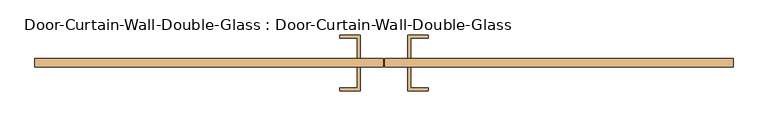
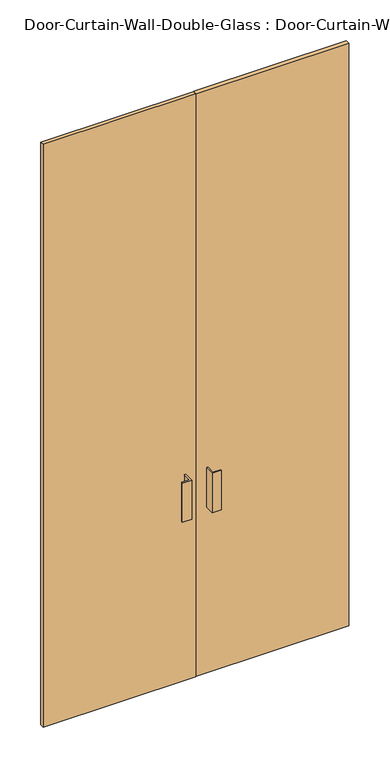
"""IFC4 building model written with IfcOpenShell, lengths in millimetres: door geometry, Door-Curtain-Wall-Double-Glass : Door-Curtain-Wall-Double-Glass."""

from ifc_helpers import new_model, si_unit, frame, origin, origin_with_axes, place, context, project, spatial, polyline, outline, extrude, source, transform, mapped, element, save


def door_curtain_wall_double_glass_door_curtain_wall_double_2de360d5(model_context):
    return source(origin(), model_context, "Body", "SweptSolid", [
        extrude(outline(polyline([(-1.6143999, -31.75), (-1.6143999, -50.8), (-749.3, -50.8), (-749.3, -31.75), (-1.6143999, -31.75)])), origin_with_axes(), (0.0, 0.0, 1.0), 3022.6),
        extrude(outline(polyline([(749.3, -31.75), (749.3, -50.8), (1.5606001, -50.8), (1.5606001, -31.75), (749.3, -31.75)])), origin_with_axes(), (0.0, 0.0, 1.0), 3022.6),
        extrude(outline(polyline([(-50.8268999, -101.6), (-95.2768999, -101.6), (-95.2768999, -95.25), (-57.1768999, -95.25), (-57.1768999, -50.8), (-50.8268999, -50.8), (-50.8268999, -101.6)])), frame((0.0, 0.0, 863.6), z_axis=(0.0, 0.0, 1.0), x_axis=(1.0, 0.0, 0.0)), (0.0, 0.0, 1.0), 203.2),
        extrude(outline(polyline([(50.7731001, -101.6), (50.7731001, -50.8), (57.1231001, -50.8), (57.1231001, -95.25), (95.2231001, -95.25), (95.2231001, -101.6), (50.7731001, -101.6)])), frame((0.0, 0.0, 863.6), z_axis=(0.0, 0.0, 1.0), x_axis=(1.0, 0.0, 0.0)), (0.0, 0.0, 1.0), 203.2),
        extrude(outline(polyline([(-50.8268999, 19.05), (-50.8268999, -31.75), (-57.1768999, -31.75), (-57.1768999, 12.7), (-95.2768999, 12.7), (-95.2768999, 19.05), (-50.8268999, 19.05)])), frame((0.0, 0.0, 863.6), z_axis=(0.0, 0.0, 1.0), x_axis=(1.0, 0.0, 0.0)), (0.0, 0.0, 1.0), 203.2),
        extrude(outline(polyline([(50.7731001, 19.05), (95.2231001, 19.05), (95.2231001, 12.7), (57.1231001, 12.7), (57.1231001, -31.75), (50.7731001, -31.75), (50.7731001, 19.05)])), frame((0.0, 0.0, 863.6), z_axis=(0.0, 0.0, 1.0), x_axis=(1.0, 0.0, 0.0)), (0.0, 0.0, 1.0), 203.2),
    ])


if __name__ == "__main__":
    model = new_model("IFC4")
    model_context = context("Model", 3, world=origin())
    ifc_project = project(units=[si_unit("LENGTHUNIT", "METRE", prefix="MILLI")], contexts=[model_context])
    site = spatial("IfcSite", under=ifc_project)
    building = spatial("IfcBuilding", under=site)
    placement = place(None, origin())
    door_curtain_wall_double_glass_door_curtain_wall_double_shape = door_curtain_wall_double_glass_door_curtain_wall_double_2de360d5(model_context)
    element("IfcDoor", 1, ObjectType="Door-Curtain-Wall-Double-Glass : Door-Curtain-Wall-Double-Glass", at=placement, inside=building, context=model_context, shape_type="MappedRepresentation", body=[
        mapped(door_curtain_wall_double_glass_door_curtain_wall_double_shape, transform((0.0, 0.0, 0.0), x_axis=(1.0, 0.0, 0.0), y_axis=(0.0, 1.0, 0.0), z_axis=(0.0, 0.0, 1.0))),
    ])
    save(model, "model.ifc")
